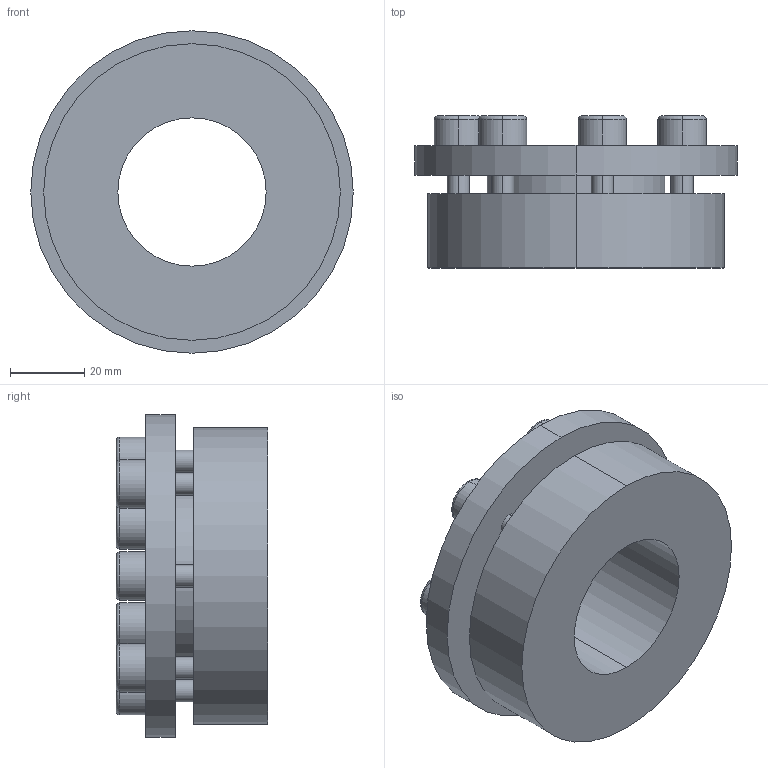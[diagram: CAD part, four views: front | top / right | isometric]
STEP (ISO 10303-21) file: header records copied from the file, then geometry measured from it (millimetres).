
FILE_DESCRIPTION (( 'STEP AP203' ), '1' );
FILE_NAME ('PL-H4 40-80.STEP', '2021-10-23T01:21:05', ( '' ), ( '' ), 'SwSTEP 2.0', 'SolidWorks 2018', '' );
FILE_SCHEMA (( 'CONFIG_CONTROL_DESIGN' ));
Length unit declared in the file: millimetre
Products named in the file (1): PL-H4 40-80
Bounding box: 87 x 41 x 87 mm (x, y, z)
Volume: 123157.6 mm3; surface area: 30931.2 mm2
Topology: 1 solids, 1 shells, 110 faces, 262 edges, 170 vertices
Faces by surface type: plane 60, cylinder 36, torus 14
Entity records: 3303 total; most frequent: DIRECTION 584, CARTESIAN_POINT 543, ORIENTED_EDGE 524, EDGE_CURVE 262, AXIS2_PLACEMENT_3D 211, VERTEX_POINT 170, LINE 162, VECTOR 162
